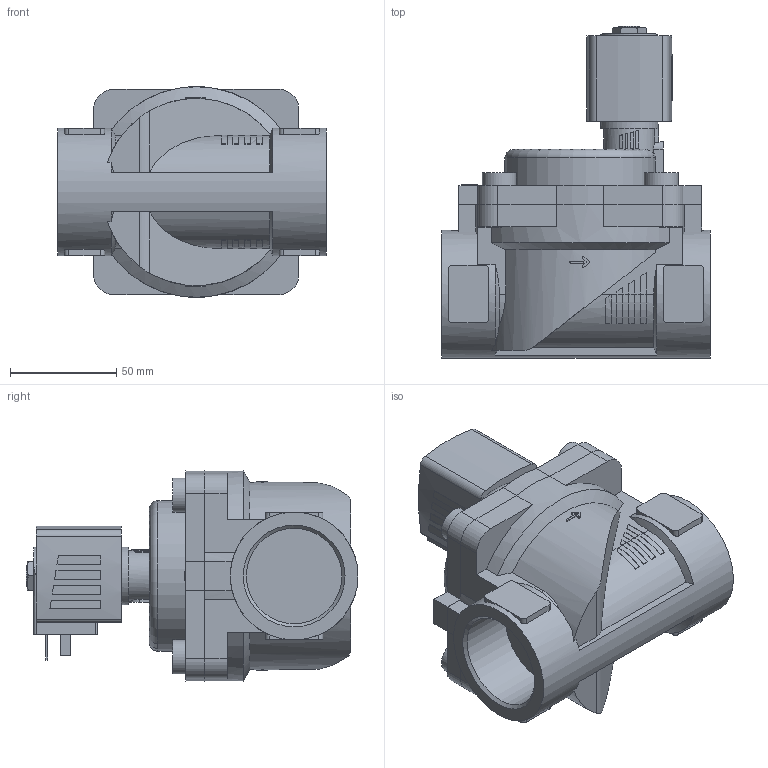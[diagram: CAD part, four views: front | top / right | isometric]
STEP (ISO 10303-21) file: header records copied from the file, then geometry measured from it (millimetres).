
FILE_DESCRIPTION(/* description */ ('STEP AP214'),/* implementation_level */ '2;1');
FILE_NAME(/* name */ '6281-285891-2_2-Way_Solenoid_Valve__Servo-assisted__General_Purpose',/* time_stamp */ '2024-09-04T15:56:39+02:00',/* author */ ('License CC BY-ND 4.0'),/* organization */ ('CADENAS'),/* preprocessor_version */ 'ST-DEVELOPER v19.3',/* originating_system */ 'PARTsolutions',/* authorisation */ ' ');
FILE_SCHEMA (('AUTOMOTIVE_DESIGN {1 0 10303 214 3 1 1}'));
Length unit declared in the file: millimetre
Products named in the file (4): 6281-285891-2/2-Way Solenoid Valve, Servo-assisted, General Purpose; 5281ev400VA2/2-Wege-Magnetventil mit Servomembran-Deckel 99 ; 6213-40G1_1/2VA-Gehaeuse-; AC10ex-6NA38-Plan-Coil
Assembly tree (3 placements, depth 2):
  6281-285891-2/2-Way Solenoid Valve, Servo-assisted, General Purpose
    5281ev400VA2/2-Wege-Magnetventil mit Servomembran-Deckel 99 
    6213-40G1_1/2VA-Gehaeuse-
    AC10ex-6NA38-Plan-Coil
Bounding box: 126 x 156 x 99 mm (x, y, z)
Volume: 702984.2 mm3; surface area: 94621.8 mm2
Topology: 3 solids, 3 shells, 357 faces, 930 edges, 614 vertices
Faces by surface type: plane 244, cylinder 95, cone 17, torus 1
Full cylindrical faces by diameter (mm): 2.013 x1, 9.74 x1, 16 x4, 27 x1, 44.845 x2, 60 x1
Entity records: 12234 total; most frequent: CARTESIAN_POINT 2164, ORIENTED_EDGE 1812, DIRECTION 1804, EDGE_CURVE 906, AXIS2_PLACEMENT_3D 614, VERTEX_POINT 606, LINE 576, VECTOR 576
